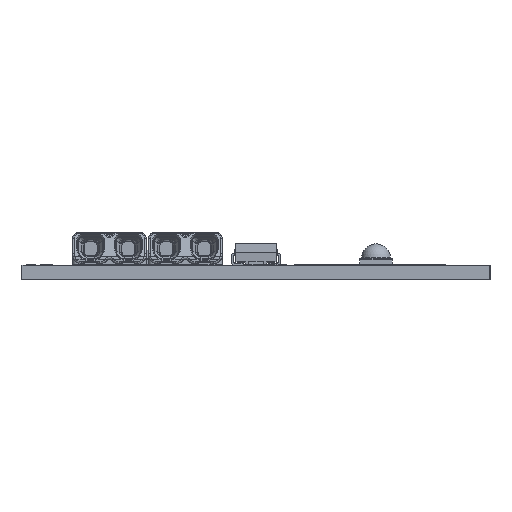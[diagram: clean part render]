
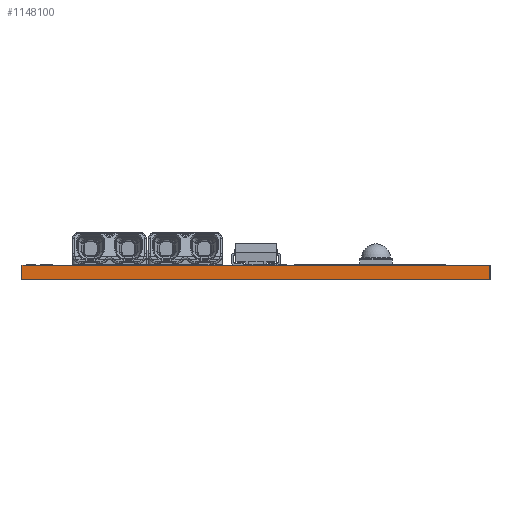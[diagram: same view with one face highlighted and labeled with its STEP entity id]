
A CAD part, left-side view. The second image highlights one B-rep face of the part: STEP entity #1148100.
In plain terms, the highlighted planar face has unit normal (-1, 0, 0).
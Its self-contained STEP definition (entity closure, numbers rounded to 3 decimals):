
#1141040=CARTESIAN_POINT('',(0.,49.5,0.));
#1141050=VERTEX_POINT('',#1141040);
#1141220=CARTESIAN_POINT('',(0.,0.,0.));
#1141230=VERTEX_POINT('',#1141220);
#1141260=CARTESIAN_POINT('',(0.,0.,0.));
#1141270=DIRECTION('',(0.,1.,0.));
#1141280=VECTOR('',#1141270,0.039);
#1141290=LINE('',#1141260,#1141280);
#1141300=EDGE_CURVE('',#1141230,#1141050,#1141290,.T.);
#1144470=CARTESIAN_POINT('',(0.,0.,-1.5));
#1144480=DIRECTION('',(0.,1.,0.));
#1144490=VECTOR('',#1144480,0.039);
#1144500=LINE('',#1144470,#1144490);
#1144510=CARTESIAN_POINT('',(0.,0.,-1.5));
#1144520=VERTEX_POINT('',#1144510);
#1144530=CARTESIAN_POINT('',(0.,49.5,-1.5));
#1144540=VERTEX_POINT('',#1144530);
#1144550=EDGE_CURVE('',#1144520,#1144540,#1144500,.T.);
#1147890=CARTESIAN_POINT('',(0.,0.,0.));
#1147900=DIRECTION('',(1.,0.,0.));
#1147910=DIRECTION('',(0.,-1.,0.));
#1147920=AXIS2_PLACEMENT_3D('',#1147890,#1147900,#1147910);
#1147930=PLANE('',#1147920);
#1147940=ORIENTED_EDGE('',*,*,#1141300,.T.);
#1147950=CARTESIAN_POINT('',(0.,0.,0.));
#1147960=DIRECTION('',(0.,0.,-1.));
#1147970=VECTOR('',#1147960,1.);
#1147980=LINE('',#1147950,#1147970);
#1147990=EDGE_CURVE('',#1141230,#1144520,#1147980,.T.);
#1148000=ORIENTED_EDGE('',*,*,#1147990,.F.);
#1148010=ORIENTED_EDGE('',*,*,#1144550,.F.);
#1148020=CARTESIAN_POINT('',(0.,49.5,0.));
#1148030=DIRECTION('',(0.,0.,-1.));
#1148040=VECTOR('',#1148030,1.);
#1148050=LINE('',#1148020,#1148040);
#1148060=EDGE_CURVE('',#1141050,#1144540,#1148050,.T.);
#1148070=ORIENTED_EDGE('',*,*,#1148060,.T.);
#1148080=EDGE_LOOP('',(#1148070,#1148010,#1148000,#1147940));
#1148090=FACE_OUTER_BOUND('',#1148080,.T.);
#1148100=ADVANCED_FACE('',(#1148090),#1147930,.F.);
